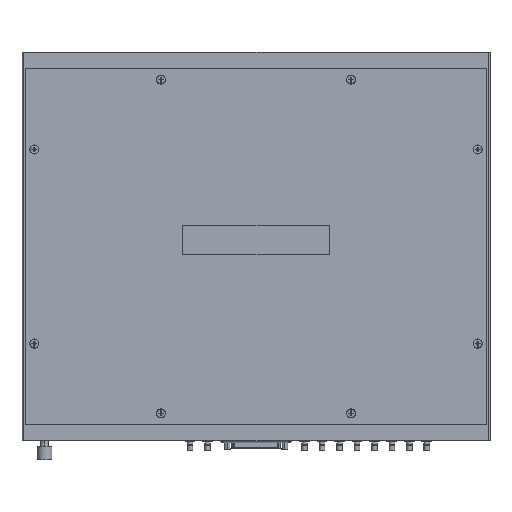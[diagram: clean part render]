
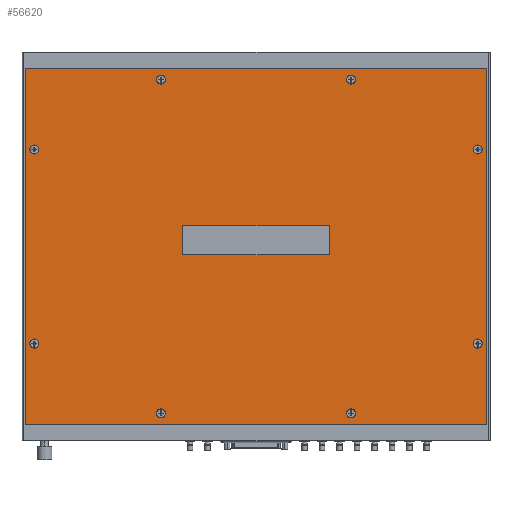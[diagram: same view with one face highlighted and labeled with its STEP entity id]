
A CAD part, front view. The second image highlights one B-rep face of the part: STEP entity #56620.
In plain terms, the highlighted planar face has unit normal (0, -1, 0).
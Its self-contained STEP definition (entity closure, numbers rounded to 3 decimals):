
#15304=DIRECTION('',(0.,0.,1.));
#15305=VECTOR('',#15304,9.15);
#15306=CARTESIAN_POINT('',(0.055,-0.845,-9.575));
#15307=LINE('',#15306,#15305);
#15308=DIRECTION('',(1.,0.,0.));
#15309=VECTOR('',#15308,11.87);
#15310=CARTESIAN_POINT('',(0.055,-0.845,-0.425));
#15311=LINE('',#15310,#15309);
#15312=DIRECTION('',(0.,0.,-1.));
#15313=VECTOR('',#15312,9.15);
#15314=CARTESIAN_POINT('',(11.925,-0.845,-0.425));
#15315=LINE('',#15314,#15313);
#15316=DIRECTION('',(-1.,0.,0.));
#15317=VECTOR('',#15316,11.87);
#15318=CARTESIAN_POINT('',(11.925,-0.845,-9.575));
#15319=LINE('',#15318,#15317);
#15320=CARTESIAN_POINT('',(11.703,-0.845,-2.5));
#15321=DIRECTION('',(0.,1.,0.));
#15322=DIRECTION('',(-1.,0.,0.));
#15323=AXIS2_PLACEMENT_3D('',#15320,#15321,#15322);
#15325=CARTESIAN_POINT('',(11.703,-0.845,-2.5));
#15326=DIRECTION('',(0.,1.,0.));
#15327=DIRECTION('',(1.,0.,0.));
#15328=AXIS2_PLACEMENT_3D('',#15325,#15326,#15327);
#15330=CARTESIAN_POINT('',(11.703,-0.845,-7.5));
#15331=DIRECTION('',(0.,1.,0.));
#15332=DIRECTION('',(-1.,0.,0.));
#15333=AXIS2_PLACEMENT_3D('',#15330,#15331,#15332);
#15335=CARTESIAN_POINT('',(11.703,-0.845,-7.5));
#15336=DIRECTION('',(0.,1.,0.));
#15337=DIRECTION('',(1.,0.,0.));
#15338=AXIS2_PLACEMENT_3D('',#15335,#15336,#15337);
#15340=CARTESIAN_POINT('',(8.44,-0.845,-0.7));
#15341=DIRECTION('',(0.,1.,0.));
#15342=DIRECTION('',(-1.,0.,0.));
#15343=AXIS2_PLACEMENT_3D('',#15340,#15341,#15342);
#15345=CARTESIAN_POINT('',(8.44,-0.845,-0.7));
#15346=DIRECTION('',(0.,1.,0.));
#15347=DIRECTION('',(1.,0.,0.));
#15348=AXIS2_PLACEMENT_3D('',#15345,#15346,#15347);
#15350=CARTESIAN_POINT('',(3.54,-0.845,-0.7));
#15351=DIRECTION('',(0.,1.,0.));
#15352=DIRECTION('',(-1.,0.,0.));
#15353=AXIS2_PLACEMENT_3D('',#15350,#15351,#15352);
#15355=CARTESIAN_POINT('',(3.54,-0.845,-0.7));
#15356=DIRECTION('',(0.,1.,0.));
#15357=DIRECTION('',(1.,0.,0.));
#15358=AXIS2_PLACEMENT_3D('',#15355,#15356,#15357);
#15360=CARTESIAN_POINT('',(0.278,-0.845,-2.5));
#15361=DIRECTION('',(0.,1.,0.));
#15362=DIRECTION('',(-1.,0.,0.));
#15363=AXIS2_PLACEMENT_3D('',#15360,#15361,#15362);
#15365=CARTESIAN_POINT('',(0.278,-0.845,-2.5));
#15366=DIRECTION('',(0.,1.,0.));
#15367=DIRECTION('',(1.,0.,0.));
#15368=AXIS2_PLACEMENT_3D('',#15365,#15366,#15367);
#15370=CARTESIAN_POINT('',(0.278,-0.845,-7.5));
#15371=DIRECTION('',(0.,1.,0.));
#15372=DIRECTION('',(-1.,0.,0.));
#15373=AXIS2_PLACEMENT_3D('',#15370,#15371,#15372);
#15375=CARTESIAN_POINT('',(0.278,-0.845,-7.5));
#15376=DIRECTION('',(0.,1.,0.));
#15377=DIRECTION('',(1.,0.,0.));
#15378=AXIS2_PLACEMENT_3D('',#15375,#15376,#15377);
#15380=CARTESIAN_POINT('',(3.54,-0.845,-9.3));
#15381=DIRECTION('',(0.,1.,0.));
#15382=DIRECTION('',(-1.,0.,0.));
#15383=AXIS2_PLACEMENT_3D('',#15380,#15381,#15382);
#15385=CARTESIAN_POINT('',(3.54,-0.845,-9.3));
#15386=DIRECTION('',(0.,1.,0.));
#15387=DIRECTION('',(1.,0.,0.));
#15388=AXIS2_PLACEMENT_3D('',#15385,#15386,#15387);
#15390=CARTESIAN_POINT('',(8.44,-0.845,-9.3));
#15391=DIRECTION('',(0.,1.,0.));
#15392=DIRECTION('',(-1.,0.,0.));
#15393=AXIS2_PLACEMENT_3D('',#15390,#15391,#15392);
#15395=CARTESIAN_POINT('',(8.44,-0.845,-9.3));
#15396=DIRECTION('',(0.,1.,0.));
#15397=DIRECTION('',(1.,0.,0.));
#15398=AXIS2_PLACEMENT_3D('',#15395,#15396,#15397);
#15400=DIRECTION('',(1.,0.,0.));
#15401=VECTOR('',#15400,3.716);
#15402=CARTESIAN_POINT('',(4.132,-0.845,-4.463));
#15403=LINE('',#15402,#15401);
#15404=CARTESIAN_POINT('',(4.132,-0.845,-4.51));
#15405=DIRECTION('',(0.,-1.,0.));
#15406=DIRECTION('',(0.,0.,1.));
#15407=AXIS2_PLACEMENT_3D('',#15404,#15405,#15406);
#15409=DIRECTION('',(0.,0.,1.));
#15410=VECTOR('',#15409,0.656);
#15411=CARTESIAN_POINT('',(4.085,-0.845,-5.166));
#15412=LINE('',#15411,#15410);
#15413=CARTESIAN_POINT('',(4.132,-0.845,-5.166));
#15414=DIRECTION('',(0.,-1.,0.));
#15415=DIRECTION('',(-1.,0.,0.));
#15416=AXIS2_PLACEMENT_3D('',#15413,#15414,#15415);
#15418=DIRECTION('',(-1.,0.,0.));
#15419=VECTOR('',#15418,3.716);
#15420=CARTESIAN_POINT('',(7.848,-0.845,-5.213));
#15421=LINE('',#15420,#15419);
#15422=CARTESIAN_POINT('',(7.848,-0.845,-5.166));
#15423=DIRECTION('',(0.,-1.,0.));
#15424=DIRECTION('',(0.,0.,-1.));
#15425=AXIS2_PLACEMENT_3D('',#15422,#15423,#15424);
#15427=DIRECTION('',(0.,0.,-1.));
#15428=VECTOR('',#15427,0.656);
#15429=CARTESIAN_POINT('',(7.895,-0.845,-4.51));
#15430=LINE('',#15429,#15428);
#15431=CARTESIAN_POINT('',(7.848,-0.845,-4.51));
#15432=DIRECTION('',(0.,-1.,0.));
#15433=DIRECTION('',(1.,0.,0.));
#15434=AXIS2_PLACEMENT_3D('',#15431,#15432,#15433);
#28321=CARTESIAN_POINT('',(0.055,-0.845,-9.575));
#28322=CARTESIAN_POINT('',(0.055,-0.845,-0.425));
#28323=VERTEX_POINT('',#28321);
#28324=VERTEX_POINT('',#28322);
#28325=CARTESIAN_POINT('',(11.925,-0.845,-0.425));
#28326=VERTEX_POINT('',#28325);
#28327=CARTESIAN_POINT('',(11.925,-0.845,-9.575));
#28328=VERTEX_POINT('',#28327);
#28361=CARTESIAN_POINT('',(11.585,-0.845,-2.5));
#28362=CARTESIAN_POINT('',(11.82,-0.845,-2.5));
#28363=VERTEX_POINT('',#28361);
#28364=VERTEX_POINT('',#28362);
#28365=CARTESIAN_POINT('',(11.585,-0.845,-7.5));
#28366=CARTESIAN_POINT('',(11.82,-0.845,-7.5));
#28367=VERTEX_POINT('',#28365);
#28368=VERTEX_POINT('',#28366);
#28369=CARTESIAN_POINT('',(8.323,-0.845,-0.7));
#28370=CARTESIAN_POINT('',(8.558,-0.845,-0.7));
#28371=VERTEX_POINT('',#28369);
#28372=VERTEX_POINT('',#28370);
#28373=CARTESIAN_POINT('',(3.423,-0.845,-0.7));
#28374=CARTESIAN_POINT('',(3.658,-0.845,-0.7));
#28375=VERTEX_POINT('',#28373);
#28376=VERTEX_POINT('',#28374);
#28377=CARTESIAN_POINT('',(0.16,-0.845,-2.5));
#28378=CARTESIAN_POINT('',(0.395,-0.845,-2.5));
#28379=VERTEX_POINT('',#28377);
#28380=VERTEX_POINT('',#28378);
#28381=CARTESIAN_POINT('',(0.16,-0.845,-7.5));
#28382=CARTESIAN_POINT('',(0.395,-0.845,-7.5));
#28383=VERTEX_POINT('',#28381);
#28384=VERTEX_POINT('',#28382);
#28385=CARTESIAN_POINT('',(3.423,-0.845,-9.3));
#28386=CARTESIAN_POINT('',(3.658,-0.845,-9.3));
#28387=VERTEX_POINT('',#28385);
#28388=VERTEX_POINT('',#28386);
#28389=CARTESIAN_POINT('',(8.323,-0.845,-9.3));
#28390=CARTESIAN_POINT('',(8.558,-0.845,-9.3));
#28391=VERTEX_POINT('',#28389);
#28392=VERTEX_POINT('',#28390);
#33612=CARTESIAN_POINT('',(4.132,-0.845,-4.463));
#33613=CARTESIAN_POINT('',(7.848,-0.845,-4.463));
#33614=VERTEX_POINT('',#33612);
#33615=VERTEX_POINT('',#33613);
#33616=CARTESIAN_POINT('',(7.895,-0.845,-4.51));
#33617=CARTESIAN_POINT('',(7.895,-0.845,-5.166));
#33618=VERTEX_POINT('',#33616);
#33619=VERTEX_POINT('',#33617);
#33620=CARTESIAN_POINT('',(7.848,-0.845,-5.213));
#33621=CARTESIAN_POINT('',(4.132,-0.845,-5.213));
#33622=VERTEX_POINT('',#33620);
#33623=VERTEX_POINT('',#33621);
#33624=CARTESIAN_POINT('',(4.085,-0.845,-5.166));
#33625=CARTESIAN_POINT('',(4.085,-0.845,-4.51));
#33626=VERTEX_POINT('',#33624);
#33627=VERTEX_POINT('',#33625);
#56542=CARTESIAN_POINT('',(0.055,-0.845,-9.575));
#56543=DIRECTION('',(0.,1.,0.));
#56544=DIRECTION('',(1.,0.,0.));
#56545=AXIS2_PLACEMENT_3D('',#56542,#56543,#56544);
#56546=PLANE('',#56545);
#56547=ORIENTED_EDGE('',*,*,#55984,.T.);
#56549=ORIENTED_EDGE('',*,*,#56548,.T.);
#56550=ORIENTED_EDGE('',*,*,#56060,.T.);
#56551=ORIENTED_EDGE('',*,*,#56536,.T.);
#56552=EDGE_LOOP('',(#56547,#56549,#56550,#56551));
#56553=FACE_OUTER_BOUND('',#56552,.F.);
#56555=ORIENTED_EDGE('',*,*,#56554,.F.);
#56557=ORIENTED_EDGE('',*,*,#56556,.F.);
#56558=EDGE_LOOP('',(#56555,#56557));
#56559=FACE_BOUND('',#56558,.F.);
#56561=ORIENTED_EDGE('',*,*,#56560,.F.);
#56563=ORIENTED_EDGE('',*,*,#56562,.F.);
#56564=EDGE_LOOP('',(#56561,#56563));
#56565=FACE_BOUND('',#56564,.F.);
#56567=ORIENTED_EDGE('',*,*,#56566,.F.);
#56569=ORIENTED_EDGE('',*,*,#56568,.F.);
#56570=EDGE_LOOP('',(#56567,#56569));
#56571=FACE_BOUND('',#56570,.F.);
#56573=ORIENTED_EDGE('',*,*,#56572,.F.);
#56575=ORIENTED_EDGE('',*,*,#56574,.F.);
#56576=EDGE_LOOP('',(#56573,#56575));
#56577=FACE_BOUND('',#56576,.F.);
#56579=ORIENTED_EDGE('',*,*,#56578,.F.);
#56581=ORIENTED_EDGE('',*,*,#56580,.F.);
#56582=EDGE_LOOP('',(#56579,#56581));
#56583=FACE_BOUND('',#56582,.F.);
#56585=ORIENTED_EDGE('',*,*,#56584,.F.);
#56587=ORIENTED_EDGE('',*,*,#56586,.F.);
#56588=EDGE_LOOP('',(#56585,#56587));
#56589=FACE_BOUND('',#56588,.F.);
#56591=ORIENTED_EDGE('',*,*,#56590,.F.);
#56593=ORIENTED_EDGE('',*,*,#56592,.F.);
#56594=EDGE_LOOP('',(#56591,#56593));
#56595=FACE_BOUND('',#56594,.F.);
#56597=ORIENTED_EDGE('',*,*,#56596,.F.);
#56599=ORIENTED_EDGE('',*,*,#56598,.F.);
#56600=EDGE_LOOP('',(#56597,#56599));
#56601=FACE_BOUND('',#56600,.F.);
#56603=ORIENTED_EDGE('',*,*,#56602,.F.);
#56605=ORIENTED_EDGE('',*,*,#56604,.T.);
#56607=ORIENTED_EDGE('',*,*,#56606,.F.);
#56609=ORIENTED_EDGE('',*,*,#56608,.T.);
#56611=ORIENTED_EDGE('',*,*,#56610,.F.);
#56613=ORIENTED_EDGE('',*,*,#56612,.T.);
#56615=ORIENTED_EDGE('',*,*,#56614,.F.);
#56617=ORIENTED_EDGE('',*,*,#56616,.T.);
#56618=EDGE_LOOP('',(#56603,#56605,#56607,#56609,#56611,#56613,#56615,#56617));
#56619=FACE_BOUND('',#56618,.F.);
#56620=ADVANCED_FACE('',(#56553,#56559,#56565,#56571,#56577,#56583,#56589,
#56595,#56601,#56619),#56546,.F.);
#15324=CIRCLE('',#15323,0.118);
#15329=CIRCLE('',#15328,0.118);
#15334=CIRCLE('',#15333,0.118);
#15339=CIRCLE('',#15338,0.118);
#15344=CIRCLE('',#15343,0.118);
#15349=CIRCLE('',#15348,0.118);
#15354=CIRCLE('',#15353,0.118);
#15359=CIRCLE('',#15358,0.118);
#15364=CIRCLE('',#15363,0.118);
#15369=CIRCLE('',#15368,0.118);
#15374=CIRCLE('',#15373,0.118);
#15379=CIRCLE('',#15378,0.118);
#15384=CIRCLE('',#15383,0.118);
#15389=CIRCLE('',#15388,0.118);
#15394=CIRCLE('',#15393,0.118);
#15399=CIRCLE('',#15398,0.118);
#15408=CIRCLE('',#15407,0.047);
#15417=CIRCLE('',#15416,0.047);
#15426=CIRCLE('',#15425,0.047);
#15435=CIRCLE('',#15434,0.047);
#55984=EDGE_CURVE('',#28323,#28324,#15307,.T.);
#56060=EDGE_CURVE('',#28326,#28328,#15315,.T.);
#56536=EDGE_CURVE('',#28328,#28323,#15319,.T.);
#56548=EDGE_CURVE('',#28324,#28326,#15311,.T.);
#56554=EDGE_CURVE('',#28363,#28364,#15324,.T.);
#56556=EDGE_CURVE('',#28364,#28363,#15329,.T.);
#56560=EDGE_CURVE('',#28367,#28368,#15334,.T.);
#56562=EDGE_CURVE('',#28368,#28367,#15339,.T.);
#56566=EDGE_CURVE('',#28371,#28372,#15344,.T.);
#56568=EDGE_CURVE('',#28372,#28371,#15349,.T.);
#56572=EDGE_CURVE('',#28375,#28376,#15354,.T.);
#56574=EDGE_CURVE('',#28376,#28375,#15359,.T.);
#56578=EDGE_CURVE('',#28379,#28380,#15364,.T.);
#56580=EDGE_CURVE('',#28380,#28379,#15369,.T.);
#56584=EDGE_CURVE('',#28383,#28384,#15374,.T.);
#56586=EDGE_CURVE('',#28384,#28383,#15379,.T.);
#56590=EDGE_CURVE('',#28387,#28388,#15384,.T.);
#56592=EDGE_CURVE('',#28388,#28387,#15389,.T.);
#56596=EDGE_CURVE('',#28391,#28392,#15394,.T.);
#56598=EDGE_CURVE('',#28392,#28391,#15399,.T.);
#56602=EDGE_CURVE('',#33614,#33615,#15403,.T.);
#56604=EDGE_CURVE('',#33614,#33627,#15408,.T.);
#56606=EDGE_CURVE('',#33626,#33627,#15412,.T.);
#56608=EDGE_CURVE('',#33626,#33623,#15417,.T.);
#56610=EDGE_CURVE('',#33622,#33623,#15421,.T.);
#56612=EDGE_CURVE('',#33622,#33619,#15426,.T.);
#56614=EDGE_CURVE('',#33618,#33619,#15430,.T.);
#56616=EDGE_CURVE('',#33618,#33615,#15435,.T.);
